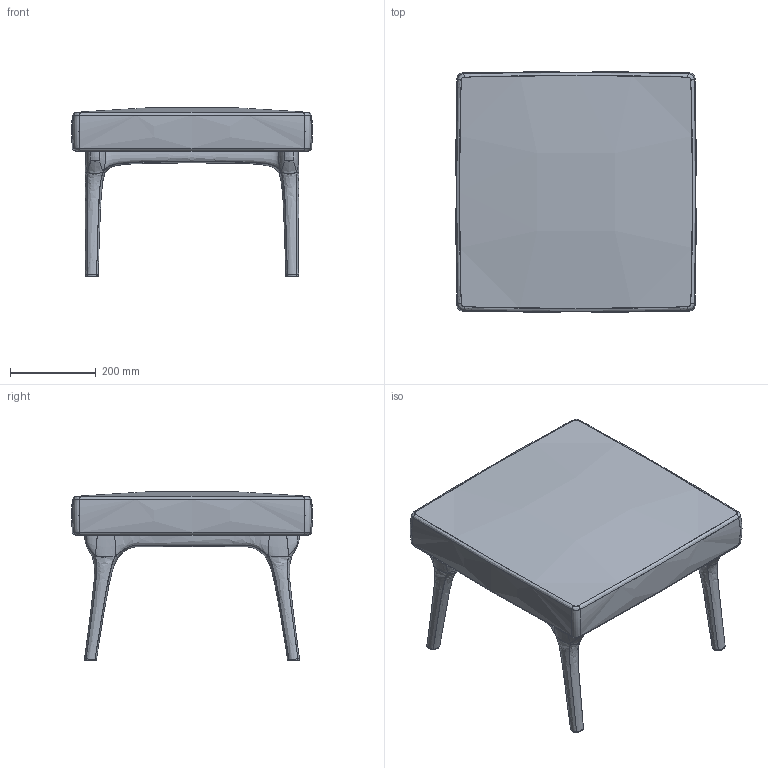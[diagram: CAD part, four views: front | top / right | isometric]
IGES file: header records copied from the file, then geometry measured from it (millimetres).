
Start section: SolidWorks IGES file using analytic representation for surfaces
Global section: file name: P:\Corporate Identity\4_Product_Content\2d3ddag_2014\Zio Lounge Chair\2D\ZIO Footstool.IGS; native system: SolidWorks 2014; preprocessor: SolidWorks 2014; author: wybrand; date: 140917.170805; units: millimetre
Bounding box: 563.27 x 563.27 x 395.22 mm (x, y, z)
Surface area: 1145485.2 mm2 (no closed solid volume)
Topology: 0 solids, 0 shells, 104 faces, 844 edges, 844 vertices
Faces by surface type: bspline 104
